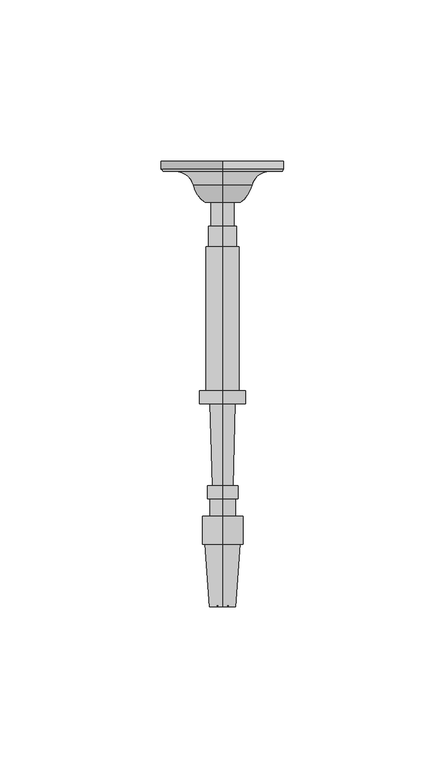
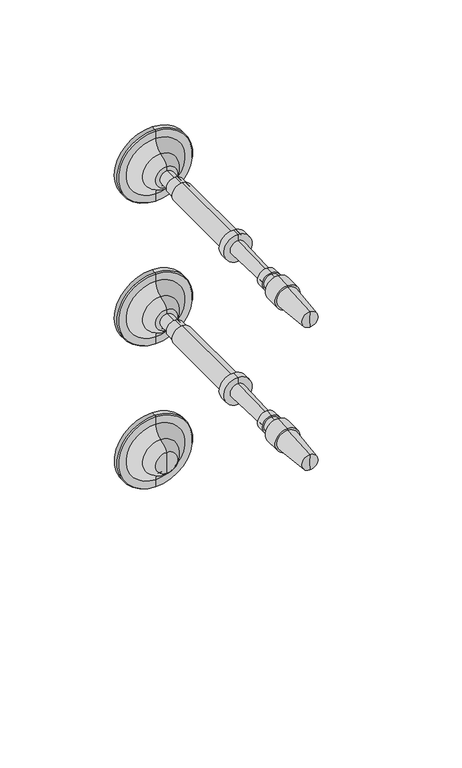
"""IFC4 building model written with IfcOpenShell, lengths in millimetres: railing geometry, RAILEASY CABLE RAILING CORNER TENSIONERS STAIR."""

from ifc_helpers import new_model, si_unit, point, frame, origin, place, context, project, spatial, polyline, circle_curve, ellipse_curve, trimmed, source, transform, mapped, element, save
from ifc_brep_helpers import plane_surface, cylinder_surface, revolved_surface, advanced_brep


def railing_e89b9eff(model_context):
    return source(origin(), model_context, "Body", "AdvancedBrep", [
        advanced_brep(
        [(4097.4568095, 20263.8073048, 32915.0001631), (4097.4568095, 20263.8073048, 32895.9501631), (4097.4568095, 20263.8073048, 32934.0501631), (4097.4568095, 20251.1146682, 32909.4769785), (4097.4568095, 20251.1146682, 32915.0001631), (4097.4568095, 20251.1146682, 32920.5233478), (4097.4568095, 20256.3907646, 32905.8720381), (4097.4568095, 20256.3907646, 32924.1282881), (4097.4568095, 20260.7563896, 32900.2458254), (4097.4568095, 20260.7563896, 32929.7545009), (4097.4568095, 20260.7563896, 32896.3762941), (4097.4568095, 20260.7563896, 32933.6240321), (4097.4568095, 20261.4260548, 32895.9501631), (4097.4568095, 20261.4260548, 32934.0501631)],
        [
            (0, 1),
            (1, 2, circle_curve(frame((4097.4568095, 20263.8073048, 32915.0001631), z_axis=(0.0, 1.0, 0.0), x_axis=(0.0, 0.0, 1.0)), 19.05)),
            (2, 0),
            (2, 1, circle_curve(frame((4097.4568095, 20263.8073048, 32915.0001631), z_axis=(0.0, 1.0, 0.0), x_axis=(0.0, 0.0, 1.0)), 19.05)),
            (3, 4),
            (4, 5),
            (5, 3, circle_curve(frame((4097.4568095, 20251.1146682, 32915.0001631), z_axis=(0.0, -1.0, 0.0), x_axis=(0.0, 0.0, 1.0)), 5.5231846)),
            (3, 5, circle_curve(frame((4097.4568095, 20251.1146682, 32915.0001631), z_axis=(0.0, -1.0, 0.0), x_axis=(0.0, 0.0, 1.0)), 5.5231846)),
            (6, 3, circle_curve(frame((4097.4568095, 20258.7151733, 32914.9374304), z_axis=(-1.0, 0.0, 0.0), x_axis=(0.0, -1.0, 0.0)), 9.3586438)),
            (5, 7, circle_curve(frame((4097.4568095, 20258.7151733, 32915.0628958), z_axis=(-1.0, 0.0, 0.0), x_axis=(0.0, -1.0, 0.0)), 9.3586438)),
            (7, 6, circle_curve(frame((4097.4568095, 20256.3907646, 32915.0001631), z_axis=(0.0, -1.0, 0.0), x_axis=(0.0, 0.0, 1.0)), 9.128125)),
            (6, 7, circle_curve(frame((4097.4568095, 20256.3907646, 32915.0001631), z_axis=(0.0, -1.0, 0.0), x_axis=(0.0, 0.0, 1.0)), 9.128125)),
            (8, 6, circle_curve(frame((4097.4568095, 20254.9481776, 32900.2458254), z_axis=(1.0, 0.0, 0.0), x_axis=(0.0, -1.0, 0.0)), 5.8082121)),
            (7, 9, circle_curve(frame((4097.4568095, 20254.9481776, 32929.7545009), z_axis=(1.0, 0.0, 0.0), x_axis=(0.0, -1.0, 0.0)), 5.8082121)),
            (9, 8, circle_curve(frame((4097.4568095, 20260.7563896, 32915.0001631), z_axis=(0.0, -1.0, 0.0), x_axis=(0.0, 0.0, 1.0)), 14.7543378)),
            (8, 9, circle_curve(frame((4097.4568095, 20260.7563896, 32915.0001631), z_axis=(0.0, -1.0, 0.0), x_axis=(0.0, 0.0, 1.0)), 14.7543378)),
            (10, 8),
            (9, 11),
            (11, 10, circle_curve(frame((4097.4568095, 20260.7563896, 32915.0001631), z_axis=(0.0, -1.0, 0.0), x_axis=(0.0, 0.0, 1.0)), 18.623869)),
            (10, 11, circle_curve(frame((4097.4568095, 20260.7563896, 32915.0001631), z_axis=(0.0, -1.0, 0.0), x_axis=(0.0, 0.0, 1.0)), 18.623869)),
            (12, 10),
            (11, 13),
            (13, 12, circle_curve(frame((4097.4568095, 20261.4260548, 32915.0001631), z_axis=(0.0, -1.0, 0.0), x_axis=(0.0, 0.0, 1.0)), 19.05)),
            (12, 13, circle_curve(frame((4097.4568095, 20261.4260548, 32915.0001631), z_axis=(0.0, -1.0, 0.0), x_axis=(0.0, 0.0, 1.0)), 19.05)),
            (1, 12),
            (13, 2),
        ],
        [
            plane_surface(frame((4097.4568095, 20263.8073048, 32915.0001631), z_axis=(0.0, 1.0, 0.0), x_axis=(0.0, 0.0, 1.0))),
            plane_surface(frame((4097.4568095, 20251.1146682, 32915.0001631), z_axis=(0.0, -1.0, 0.0), x_axis=(0.0, 0.0, 1.0))),
            revolved_surface(trimmed(ellipse_curve(frame((4097.4568095, 20258.7151733, 32915.0628958), z_axis=(-1.0, 0.0, 0.0), x_axis=(0.0, -1.0, 0.0)), 9.3586438, 9.3586438), [point((4097.4568095, 20251.1146682, 32920.5233478))], [point((4097.4568095, 20256.3907646, 32924.1282881))], True, "CARTESIAN"), (4097.4568095, 20263.8073048, 32915.0001631), (0.0, 1.0, 0.0)),
            revolved_surface(trimmed(ellipse_curve(frame((4097.4568095, 20254.9481776, 32929.7545009), z_axis=(1.0, 0.0, 0.0), x_axis=(0.0, -1.0, 0.0)), 5.8082121, 5.8082121), [point((4097.4568095, 20256.3907646, 32924.1282881))], [point((4097.4568095, 20260.7563896, 32929.7545009))], True, "CARTESIAN"), (4097.4568095, 20263.8073048, 32915.0001631), (0.0, 1.0, 0.0)),
            plane_surface(frame((4097.4568095, 20260.7563896, 32915.0001631), z_axis=(0.0, -1.0, 0.0), x_axis=(0.0, 0.0, 1.0))),
            revolved_surface(polyline([(4097.4568095, 20260.7563896, 32933.6240321), (4097.4568095, 20261.4260548, 32934.0501631)]), (4097.4568095, 20263.8073048, 32915.0001631), (0.0, 1.0, 0.0)),
            cylinder_surface(frame((4097.4568095, 20263.8073048, 32915.0001631), z_axis=(0.0, 1.0, 0.0), x_axis=(0.0, 0.0, 1.0)), 19.05),
        ],
        [
            (0, [[1, 2, 3]]),
            (0, [[-3, 4, -1]]),
            (1, [[5, 6, 7]]),
            (1, [[-6, -5, 8]]),
            (2, [[9, -7, 10, 11]]),
            (2, [[-10, -8, -9, 12]]),
            (3, [[13, -11, 14, 15]]),
            (3, [[-14, -12, -13, 16]]),
            (4, [[17, -15, 18, 19]]),
            (4, [[-18, -16, -17, 20]]),
            (5, [[21, -19, 22, 23]]),
            (5, [[-22, -20, -21, 24]]),
            (6, [[25, -23, 26, -2]]),
            (6, [[-26, -24, -25, -4]]),
        ],
    ),
        advanced_brep(
        [(4097.4568095, 20251.1146682, 32911.4282881), (4097.4568095, 20251.1146682, 32918.5720381), (4097.4568095, 20251.1146682, 32915.0001631), (4097.4568095, 20126.170779, 32915.0001631), (4097.4568095, 20125.8751146, 32919.0246235), (4097.4568095, 20125.8751146, 32910.9757028), (4097.4568095, 20145.2184786, 32920.445719), (4097.4568095, 20145.2184786, 32909.5546072), (4097.4568095, 20145.2184786, 32921.3386877), (4097.4568095, 20145.2184786, 32908.6616385), (4097.4568095, 20153.8505098, 32921.3386877), (4097.4568095, 20153.8505098, 32908.6616385), (4097.4568095, 20153.8505098, 32918.9574377), (4097.4568095, 20153.8505098, 32911.0428885), (4097.4568095, 20159.2083223, 32918.9574377), (4097.4568095, 20159.2083223, 32911.0428885), (4097.4568095, 20159.2083223, 32919.7511877), (4097.4568095, 20159.2083223, 32910.2491385), (4097.4568095, 20163.2762911, 32919.7511877), (4097.4568095, 20163.2762911, 32910.2491385), (4097.4568095, 20163.3203782, 32918.1643), (4097.4568095, 20163.3203782, 32911.8360262), (4097.4568095, 20188.7105814, 32918.8696944), (4097.4568095, 20188.7105814, 32911.1306319), (4097.4568095, 20188.7105814, 32922.1439131), (4097.4568095, 20188.7105814, 32907.8564131), (4097.4568095, 20192.6793314, 32922.1439131), (4097.4568095, 20192.6793314, 32907.8564131), (4097.4568095, 20192.6793314, 32920.1595381), (4097.4568095, 20192.6793314, 32909.8407881), (4097.4568095, 20237.4269877, 32920.1595381), (4097.4568095, 20237.4269877, 32909.8407881), (4097.4568095, 20237.4269877, 32919.3657881), (4097.4568095, 20237.4269877, 32910.6345381), (4097.4568095, 20243.7769877, 32919.3657881), (4097.4568095, 20243.7769877, 32910.6345381), (4097.4568095, 20243.7769877, 32918.5720381), (4097.4568095, 20243.7769877, 32911.4282881)],
        [
            (0, 1, circle_curve(frame((4097.4568095, 20251.1146682, 32915.0001631), z_axis=(0.0, 1.0, 0.0), x_axis=(0.0, 0.0, 1.0000000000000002)), 3.571875)),
            (1, 2),
            (2, 0),
            (1, 0, circle_curve(frame((4097.4568095, 20251.1146682, 32915.0001631), z_axis=(0.0, 1.0, 0.0), x_axis=(0.0, 0.0, 1.0000000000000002)), 3.571875)),
            (3, 4),
            (4, 5, circle_curve(frame((4097.4568095, 20125.8751146, 32915.0001631), z_axis=(0.0, -1.0, 0.0), x_axis=(0.0, 0.0, 1.0000000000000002)), 4.0244604)),
            (5, 3),
            (5, 4, circle_curve(frame((4097.4568095, 20125.8751146, 32915.0001631), z_axis=(0.0, -1.0, 0.0), x_axis=(0.0, 0.0, 1.0000000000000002)), 4.0244604)),
            (4, 6),
            (6, 7, circle_curve(frame((4097.4568095, 20145.2184786, 32915.0001631), z_axis=(0.0, -1.0, 0.0), x_axis=(0.0, 0.0, 1.0000000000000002)), 5.4455559)),
            (7, 5),
            (7, 6, circle_curve(frame((4097.4568095, 20145.2184786, 32915.0001631), z_axis=(0.0, -1.0, 0.0), x_axis=(0.0, 0.0, 1.0000000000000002)), 5.4455559)),
            (6, 8),
            (8, 9, circle_curve(frame((4097.4568095, 20145.2184786, 32915.0001631), z_axis=(0.0, -1.0, 0.0), x_axis=(0.0, 0.0, 1.0000000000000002)), 6.3385246)),
            (9, 7),
            (9, 8, circle_curve(frame((4097.4568095, 20145.2184786, 32915.0001631), z_axis=(0.0, -1.0, 0.0), x_axis=(0.0, 0.0, 1.0000000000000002)), 6.3385246)),
            (8, 10),
            (10, 11, circle_curve(frame((4097.4568095, 20153.8505098, 32915.0001631), z_axis=(0.0, -1.0, 0.0), x_axis=(0.0, 0.0, 1.0000000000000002)), 6.3385246)),
            (11, 9),
            (11, 10, circle_curve(frame((4097.4568095, 20153.8505098, 32915.0001631), z_axis=(0.0, -1.0, 0.0), x_axis=(0.0, 0.0, 1.0000000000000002)), 6.3385246)),
            (10, 12),
            (12, 13, circle_curve(frame((4097.4568095, 20153.8505098, 32915.0001631), z_axis=(0.0, -1.0, 0.0), x_axis=(0.0, 0.0, 1.0000000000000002)), 3.9572746)),
            (13, 11),
            (13, 12, circle_curve(frame((4097.4568095, 20153.8505098, 32915.0001631), z_axis=(0.0, -1.0, 0.0), x_axis=(0.0, 0.0, 1.0000000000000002)), 3.9572746)),
            (12, 14),
            (14, 15, circle_curve(frame((4097.4568095, 20159.2083223, 32915.0001631), z_axis=(0.0, -1.0, 0.0), x_axis=(0.0, 0.0, 1.0000000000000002)), 3.9572746)),
            (15, 13),
            (15, 14, circle_curve(frame((4097.4568095, 20159.2083223, 32915.0001631), z_axis=(0.0, -1.0, 0.0), x_axis=(0.0, 0.0, 1.0000000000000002)), 3.9572746)),
            (14, 16),
            (16, 17, circle_curve(frame((4097.4568095, 20159.2083223, 32915.0001631), z_axis=(0.0, -1.0, 0.0), x_axis=(0.0, 0.0, 1.0000000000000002)), 4.7510246)),
            (17, 15),
            (17, 16, circle_curve(frame((4097.4568095, 20159.2083223, 32915.0001631), z_axis=(0.0, -1.0, 0.0), x_axis=(0.0, 0.0, 1.0000000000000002)), 4.7510246)),
            (16, 18),
            (18, 19, circle_curve(frame((4097.4568095, 20163.2762911, 32915.0001631), z_axis=(0.0, -1.0, 0.0), x_axis=(0.0, 0.0, 1.0000000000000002)), 4.7510246)),
            (19, 17),
            (19, 18, circle_curve(frame((4097.4568095, 20163.2762911, 32915.0001631), z_axis=(0.0, -1.0, 0.0), x_axis=(0.0, 0.0, 1.0000000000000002)), 4.7510246)),
            (18, 20),
            (20, 21, circle_curve(frame((4097.4568095, 20163.3203782, 32915.0001631), z_axis=(0.0, -1.0, 0.0), x_axis=(0.0, 0.0, 1.0000000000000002)), 3.1641369)),
            (21, 19),
            (21, 20, circle_curve(frame((4097.4568095, 20163.3203782, 32915.0001631), z_axis=(0.0, -1.0, 0.0), x_axis=(0.0, 0.0, 1.0000000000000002)), 3.1641369)),
            (20, 22),
            (22, 23, circle_curve(frame((4097.4568095, 20188.7105814, 32915.0001631), z_axis=(0.0, -1.0, 0.0), x_axis=(0.0, 0.0, 1.0000000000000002)), 3.8695313)),
            (23, 21),
            (23, 22, circle_curve(frame((4097.4568095, 20188.7105814, 32915.0001631), z_axis=(0.0, -1.0, 0.0), x_axis=(0.0, 0.0, 1.0000000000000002)), 3.8695313)),
            (22, 24),
            (24, 25, circle_curve(frame((4097.4568095, 20188.7105814, 32915.0001631), z_axis=(0.0, -1.0, 0.0), x_axis=(0.0, 0.0, 1.0000000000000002)), 7.14375)),
            (25, 23),
            (25, 24, circle_curve(frame((4097.4568095, 20188.7105814, 32915.0001631), z_axis=(0.0, -1.0, 0.0), x_axis=(0.0, 0.0, 1.0000000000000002)), 7.14375)),
            (24, 26),
            (26, 27, circle_curve(frame((4097.4568095, 20192.6793314, 32915.0001631), z_axis=(0.0, -1.0, 0.0), x_axis=(0.0, 0.0, 1.0000000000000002)), 7.14375)),
            (27, 25),
            (27, 26, circle_curve(frame((4097.4568095, 20192.6793314, 32915.0001631), z_axis=(0.0, -1.0, 0.0), x_axis=(0.0, 0.0, 1.0000000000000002)), 7.14375)),
            (26, 28),
            (28, 29, circle_curve(frame((4097.4568095, 20192.6793314, 32915.0001631), z_axis=(0.0, -1.0, 0.0), x_axis=(0.0, 0.0, 1.0000000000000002)), 5.159375)),
            (29, 27),
            (29, 28, circle_curve(frame((4097.4568095, 20192.6793314, 32915.0001631), z_axis=(0.0, -1.0, 0.0), x_axis=(0.0, 0.0, 1.0000000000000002)), 5.159375)),
            (28, 30),
            (30, 31, circle_curve(frame((4097.4568095, 20237.4269877, 32915.0001631), z_axis=(0.0, -1.0, 0.0), x_axis=(0.0, 0.0, 1.0000000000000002)), 5.159375)),
            (31, 29),
            (31, 30, circle_curve(frame((4097.4568095, 20237.4269877, 32915.0001631), z_axis=(0.0, -1.0, 0.0), x_axis=(0.0, 0.0, 1.0000000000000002)), 5.159375)),
            (30, 32),
            (32, 33, circle_curve(frame((4097.4568095, 20237.4269877, 32915.0001631), z_axis=(0.0, -1.0, 0.0), x_axis=(0.0, 0.0, 1.0000000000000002)), 4.365625)),
            (33, 31),
            (33, 32, circle_curve(frame((4097.4568095, 20237.4269877, 32915.0001631), z_axis=(0.0, -1.0, 0.0), x_axis=(0.0, 0.0, 1.0000000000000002)), 4.365625)),
            (32, 34),
            (34, 35, circle_curve(frame((4097.4568095, 20243.7769877, 32915.0001631), z_axis=(0.0, -1.0, 0.0), x_axis=(0.0, 0.0, 1.0000000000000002)), 4.365625)),
            (35, 33),
            (35, 34, circle_curve(frame((4097.4568095, 20243.7769877, 32915.0001631), z_axis=(0.0, -1.0, 0.0), x_axis=(0.0, 0.0, 1.0000000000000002)), 4.365625)),
            (34, 36),
            (36, 37, circle_curve(frame((4097.4568095, 20243.7769877, 32915.0001631), z_axis=(0.0, -1.0, 0.0), x_axis=(0.0, 0.0, 1.0000000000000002)), 3.571875)),
            (37, 35),
            (37, 36, circle_curve(frame((4097.4568095, 20243.7769877, 32915.0001631), z_axis=(0.0, -1.0, 0.0), x_axis=(0.0, 0.0, 1.0000000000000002)), 3.571875)),
            (36, 1),
            (0, 37),
        ],
        [
            plane_surface(frame((4097.4568095, 20251.1146682, 32915.0001631), z_axis=(0.0, 1.0, 0.0), x_axis=(0.0, 0.0, 1.0))),
            revolved_surface(polyline([(4097.4568095, 20125.8751146, 32919.0246235), (4097.4568095, 20126.170779, 32915.0001631)]), (4097.4568095, 20126.170779, 32915.0001631), (0.0, -1.0, 0.0)),
            revolved_surface(polyline([(4097.4568095, 20145.2184786, 32920.445719), (4097.4568095, 20125.8751146, 32919.0246235)]), (4097.4568095, 20126.170779, 32915.0001631), (0.0, -1.0, 0.0)),
            plane_surface(frame((4097.4568095, 20145.2184786, 32915.0001631), z_axis=(0.0, -1.0, 0.0), x_axis=(0.0, 0.0, 1.0))),
            cylinder_surface(frame((4097.4568095, 20126.170779, 32915.0001631), z_axis=(0.0, -1.0, 0.0), x_axis=(0.0, 0.0, 1.0000000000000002)), 6.3385246),
            plane_surface(frame((4097.4568095, 20153.8505098, 32915.0001631), z_axis=(0.0, 1.0, 0.0), x_axis=(0.0, 0.0, 1.0))),
            cylinder_surface(frame((4097.4568095, 20126.170779, 32915.0001631), z_axis=(0.0, -1.0, 0.0), x_axis=(0.0, 0.0, 1.0000000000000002)), 3.9572746),
            plane_surface(frame((4097.4568095, 20159.2083223, 32915.0001631), z_axis=(0.0, -1.0, 0.0), x_axis=(0.0, 0.0, 1.0))),
            cylinder_surface(frame((4097.4568095, 20126.170779, 32915.0001631), z_axis=(0.0, -1.0, 0.0), x_axis=(0.0, 0.0, 1.0000000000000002)), 4.7510246),
            plane_surface(frame((4097.4568095, 20163.3203782, 32915.0001631), z_axis=(0.0, 1.0, 0.0), x_axis=(0.0, 0.0, 1.0))),
            revolved_surface(polyline([(4097.4568095, 20188.7105814, 32918.8696944), (4097.4568095, 20163.3203782, 32918.1643)]), (4097.4568095, 20126.170779, 32915.0001631), (0.0, -1.0, 0.0)),
            plane_surface(frame((4097.4568095, 20188.7105814, 32915.0001631), z_axis=(0.0, -1.0, 0.0), x_axis=(0.0, 0.0, 1.0))),
            cylinder_surface(frame((4097.4568095, 20126.170779, 32915.0001631), z_axis=(0.0, -1.0, 0.0), x_axis=(0.0, 0.0, 1.0000000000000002)), 7.14375),
            plane_surface(frame((4097.4568095, 20192.6793314, 32915.0001631), z_axis=(0.0, 1.0, 0.0), x_axis=(0.0, 0.0, 1.0))),
            cylinder_surface(frame((4097.4568095, 20126.170779, 32915.0001631), z_axis=(0.0, -1.0, 0.0), x_axis=(0.0, 0.0, 1.0000000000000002)), 5.159375),
            plane_surface(frame((4097.4568095, 20237.4269877, 32915.0001631), z_axis=(0.0, 1.0, 0.0), x_axis=(0.0, 0.0, 1.0))),
            cylinder_surface(frame((4097.4568095, 20126.170779, 32915.0001631), z_axis=(0.0, -1.0, 0.0), x_axis=(0.0, 0.0, 1.0000000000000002)), 4.365625),
            plane_surface(frame((4097.4568095, 20243.7769877, 32915.0001631), z_axis=(0.0, 1.0, 0.0), x_axis=(0.0, 0.0, 1.0))),
            cylinder_surface(frame((4097.4568095, 20126.170779, 32915.0001631), z_axis=(0.0, -1.0, 0.0), x_axis=(0.0, 0.0, 1.0000000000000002)), 3.571875),
        ],
        [
            (0, [[1, 2, 3]]),
            (0, [[4, -3, -2]]),
            (1, [[5, 6, 7]]),
            (1, [[-7, 8, -5]]),
            (2, [[-6, 9, 10, 11]]),
            (2, [[-8, -11, 12, -9]]),
            (3, [[-10, 13, 14, 15]]),
            (3, [[-12, -15, 16, -13]]),
            (4, [[-14, 17, 18, 19]]),
            (4, [[-16, -19, 20, -17]]),
            (5, [[-18, 21, 22, 23]]),
            (5, [[-20, -23, 24, -21]]),
            (6, [[-22, 25, 26, 27]]),
            (6, [[-24, -27, 28, -25]]),
            (7, [[-26, 29, 30, 31]]),
            (7, [[-28, -31, 32, -29]]),
            (8, [[-30, 33, 34, 35]]),
            (8, [[-32, -35, 36, -33]]),
            (9, [[-34, 37, 38, 39]]),
            (9, [[-36, -39, 40, -37]]),
            (10, [[-38, 41, 42, 43]]),
            (10, [[-40, -43, 44, -41]]),
            (11, [[-42, 45, 46, 47]]),
            (11, [[-44, -47, 48, -45]]),
            (12, [[-46, 49, 50, 51]]),
            (12, [[-48, -51, 52, -49]]),
            (13, [[-50, 53, 54, 55]]),
            (13, [[-52, -55, 56, -53]]),
            (14, [[-54, 57, 58, 59]]),
            (14, [[-56, -59, 60, -57]]),
            (15, [[-58, 61, 62, 63]]),
            (15, [[-60, -63, 64, -61]]),
            (16, [[-62, 65, 66, 67]]),
            (16, [[-64, -67, 68, -65]]),
            (17, [[-66, 69, 70, 71]]),
            (17, [[-68, -71, 72, -69]]),
            (18, [[-70, 73, -1, 74]]),
            (18, [[-72, -74, -4, -73]]),
        ],
    ),
        advanced_brep(
        [(4097.4568095, 20263.8073048, 32838.8001631), (4097.4568095, 20263.8073048, 32819.7501631), (4097.4568095, 20263.8073048, 32857.8501631), (4097.4568095, 20251.1146682, 32833.2769785), (4097.4568095, 20251.1146682, 32838.8001631), (4097.4568095, 20251.1146682, 32844.3233478), (4097.4568095, 20256.3907646, 32829.6720381), (4097.4568095, 20256.3907646, 32847.9282881), (4097.4568095, 20260.7563896, 32824.0458254), (4097.4568095, 20260.7563896, 32853.5545009), (4097.4568095, 20260.7563896, 32820.1762941), (4097.4568095, 20260.7563896, 32857.4240321), (4097.4568095, 20261.4260548, 32819.7501631), (4097.4568095, 20261.4260548, 32857.8501631)],
        [
            (0, 1),
            (1, 2, circle_curve(frame((4097.4568095, 20263.8073048, 32838.8001631), z_axis=(0.0, 1.0, 0.0), x_axis=(0.0, 0.0, 1.0)), 19.05)),
            (2, 0),
            (2, 1, circle_curve(frame((4097.4568095, 20263.8073048, 32838.8001631), z_axis=(0.0, 1.0, 0.0), x_axis=(0.0, 0.0, 1.0)), 19.05)),
            (3, 4),
            (4, 5),
            (5, 3, circle_curve(frame((4097.4568095, 20251.1146682, 32838.8001631), z_axis=(0.0, -1.0, 0.0), x_axis=(0.0, 0.0, 1.0)), 5.5231846)),
            (3, 5, circle_curve(frame((4097.4568095, 20251.1146682, 32838.8001631), z_axis=(0.0, -1.0, 0.0), x_axis=(0.0, 0.0, 1.0)), 5.5231846)),
            (6, 3, circle_curve(frame((4097.4568095, 20258.7151733, 32838.7374304), z_axis=(-1.0, 0.0, 0.0), x_axis=(0.0, -1.0, 0.0)), 9.3586438)),
            (5, 7, circle_curve(frame((4097.4568095, 20258.7151733, 32838.8628958), z_axis=(-1.0, 0.0, 0.0), x_axis=(0.0, -1.0, 0.0)), 9.3586438)),
            (7, 6, circle_curve(frame((4097.4568095, 20256.3907646, 32838.8001631), z_axis=(0.0, -1.0, 0.0), x_axis=(0.0, 0.0, 1.0)), 9.128125)),
            (6, 7, circle_curve(frame((4097.4568095, 20256.3907646, 32838.8001631), z_axis=(0.0, -1.0, 0.0), x_axis=(0.0, 0.0, 1.0)), 9.128125)),
            (8, 6, circle_curve(frame((4097.4568095, 20254.9481776, 32824.0458254), z_axis=(1.0, 0.0, 0.0), x_axis=(0.0, -1.0, 0.0)), 5.8082121)),
            (7, 9, circle_curve(frame((4097.4568095, 20254.9481776, 32853.5545009), z_axis=(1.0, 0.0, 0.0), x_axis=(0.0, -1.0, 0.0)), 5.8082121)),
            (9, 8, circle_curve(frame((4097.4568095, 20260.7563896, 32838.8001631), z_axis=(0.0, -1.0, 0.0), x_axis=(0.0, 0.0, 1.0)), 14.7543378)),
            (8, 9, circle_curve(frame((4097.4568095, 20260.7563896, 32838.8001631), z_axis=(0.0, -1.0, 0.0), x_axis=(0.0, 0.0, 1.0)), 14.7543378)),
            (10, 8),
            (9, 11),
            (11, 10, circle_curve(frame((4097.4568095, 20260.7563896, 32838.8001631), z_axis=(0.0, -1.0, 0.0), x_axis=(0.0, 0.0, 1.0)), 18.623869)),
            (10, 11, circle_curve(frame((4097.4568095, 20260.7563896, 32838.8001631), z_axis=(0.0, -1.0, 0.0), x_axis=(0.0, 0.0, 1.0)), 18.623869)),
            (12, 10),
            (11, 13),
            (13, 12, circle_curve(frame((4097.4568095, 20261.4260548, 32838.8001631), z_axis=(0.0, -1.0, 0.0), x_axis=(0.0, 0.0, 1.0)), 19.05)),
            (12, 13, circle_curve(frame((4097.4568095, 20261.4260548, 32838.8001631), z_axis=(0.0, -1.0, 0.0), x_axis=(0.0, 0.0, 1.0)), 19.05)),
            (1, 12),
            (13, 2),
        ],
        [
            plane_surface(frame((4097.4568095, 20263.8073048, 32838.8001631), z_axis=(0.0, 1.0, 0.0), x_axis=(0.0, 0.0, 1.0))),
            plane_surface(frame((4097.4568095, 20251.1146682, 32838.8001631), z_axis=(0.0, -1.0, 0.0), x_axis=(0.0, 0.0, 1.0))),
            revolved_surface(trimmed(ellipse_curve(frame((4097.4568095, 20258.7151733, 32838.8628958), z_axis=(-1.0, 0.0, 0.0), x_axis=(0.0, -1.0, 0.0)), 9.3586438, 9.3586438), [point((4097.4568095, 20251.1146682, 32844.3233478))], [point((4097.4568095, 20256.3907646, 32847.9282881))], True, "CARTESIAN"), (4097.4568095, 20263.8073048, 32838.8001631), (0.0, 1.0, 0.0)),
            revolved_surface(trimmed(ellipse_curve(frame((4097.4568095, 20254.9481776, 32853.5545009), z_axis=(1.0, 0.0, 0.0), x_axis=(0.0, -1.0, 0.0)), 5.8082121, 5.8082121), [point((4097.4568095, 20256.3907646, 32847.9282881))], [point((4097.4568095, 20260.7563896, 32853.5545009))], True, "CARTESIAN"), (4097.4568095, 20263.8073048, 32838.8001631), (0.0, 1.0, 0.0)),
            plane_surface(frame((4097.4568095, 20260.7563896, 32838.8001631), z_axis=(0.0, -1.0, 0.0), x_axis=(0.0, 0.0, 1.0))),
            revolved_surface(polyline([(4097.4568095, 20260.7563896, 32857.4240321), (4097.4568095, 20261.4260548, 32857.8501631)]), (4097.4568095, 20263.8073048, 32838.8001631), (0.0, 1.0, 0.0)),
            cylinder_surface(frame((4097.4568095, 20263.8073048, 32838.8001631), z_axis=(0.0, 1.0, 0.0), x_axis=(0.0, 0.0, 1.0)), 19.05),
        ],
        [
            (0, [[1, 2, 3]]),
            (0, [[-3, 4, -1]]),
            (1, [[5, 6, 7]]),
            (1, [[-6, -5, 8]]),
            (2, [[9, -7, 10, 11]]),
            (2, [[-10, -8, -9, 12]]),
            (3, [[13, -11, 14, 15]]),
            (3, [[-14, -12, -13, 16]]),
            (4, [[17, -15, 18, 19]]),
            (4, [[-18, -16, -17, 20]]),
            (5, [[21, -19, 22, 23]]),
            (5, [[-22, -20, -21, 24]]),
            (6, [[25, -23, 26, -2]]),
            (6, [[-26, -24, -25, -4]]),
        ],
    ),
        advanced_brep(
        [(4097.4568095, 20251.1146682, 32835.2282881), (4097.4568095, 20251.1146682, 32842.3720381), (4097.4568095, 20251.1146682, 32838.8001631), (4097.4568095, 20126.170779, 32838.8001631), (4097.4568095, 20125.8751146, 32842.8246235), (4097.4568095, 20125.8751146, 32834.7757028), (4097.4568095, 20145.2184786, 32844.245719), (4097.4568095, 20145.2184786, 32833.3546072), (4097.4568095, 20145.2184786, 32845.1386877), (4097.4568095, 20145.2184786, 32832.4616385), (4097.4568095, 20153.8505098, 32845.1386877), (4097.4568095, 20153.8505098, 32832.4616385), (4097.4568095, 20153.8505098, 32842.7574377), (4097.4568095, 20153.8505098, 32834.8428885), (4097.4568095, 20159.2083223, 32842.7574377), (4097.4568095, 20159.2083223, 32834.8428885), (4097.4568095, 20159.2083223, 32843.5511877), (4097.4568095, 20159.2083223, 32834.0491385), (4097.4568095, 20163.2762911, 32843.5511877), (4097.4568095, 20163.2762911, 32834.0491385), (4097.4568095, 20163.3203782, 32841.9643), (4097.4568095, 20163.3203782, 32835.6360262), (4097.4568095, 20188.7105814, 32842.6696944), (4097.4568095, 20188.7105814, 32834.9306319), (4097.4568095, 20188.7105814, 32845.9439131), (4097.4568095, 20188.7105814, 32831.6564131), (4097.4568095, 20192.6793314, 32845.9439131), (4097.4568095, 20192.6793314, 32831.6564131), (4097.4568095, 20192.6793314, 32843.9595381), (4097.4568095, 20192.6793314, 32833.6407881), (4097.4568095, 20237.4269877, 32843.9595381), (4097.4568095, 20237.4269877, 32833.6407881), (4097.4568095, 20237.4269877, 32843.1657881), (4097.4568095, 20237.4269877, 32834.4345381), (4097.4568095, 20243.7769877, 32843.1657881), (4097.4568095, 20243.7769877, 32834.4345381), (4097.4568095, 20243.7769877, 32842.3720381), (4097.4568095, 20243.7769877, 32835.2282881)],
        [
            (0, 1, circle_curve(frame((4097.4568095, 20251.1146682, 32838.8001631), z_axis=(0.0, 1.0, 0.0), x_axis=(0.0, 0.0, 1.0000000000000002)), 3.571875)),
            (1, 2),
            (2, 0),
            (1, 0, circle_curve(frame((4097.4568095, 20251.1146682, 32838.8001631), z_axis=(0.0, 1.0, 0.0), x_axis=(0.0, 0.0, 1.0000000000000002)), 3.571875)),
            (3, 4),
            (4, 5, circle_curve(frame((4097.4568095, 20125.8751146, 32838.8001631), z_axis=(0.0, -1.0, 0.0), x_axis=(0.0, 0.0, 1.0000000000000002)), 4.0244604)),
            (5, 3),
            (5, 4, circle_curve(frame((4097.4568095, 20125.8751146, 32838.8001631), z_axis=(0.0, -1.0, 0.0), x_axis=(0.0, 0.0, 1.0000000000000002)), 4.0244604)),
            (4, 6),
            (6, 7, circle_curve(frame((4097.4568095, 20145.2184786, 32838.8001631), z_axis=(0.0, -1.0, 0.0), x_axis=(0.0, 0.0, 1.0000000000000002)), 5.4455559)),
            (7, 5),
            (7, 6, circle_curve(frame((4097.4568095, 20145.2184786, 32838.8001631), z_axis=(0.0, -1.0, 0.0), x_axis=(0.0, 0.0, 1.0000000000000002)), 5.4455559)),
            (6, 8),
            (8, 9, circle_curve(frame((4097.4568095, 20145.2184786, 32838.8001631), z_axis=(0.0, -1.0, 0.0), x_axis=(0.0, 0.0, 1.0000000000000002)), 6.3385246)),
            (9, 7),
            (9, 8, circle_curve(frame((4097.4568095, 20145.2184786, 32838.8001631), z_axis=(0.0, -1.0, 0.0), x_axis=(0.0, 0.0, 1.0000000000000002)), 6.3385246)),
            (8, 10),
            (10, 11, circle_curve(frame((4097.4568095, 20153.8505098, 32838.8001631), z_axis=(0.0, -1.0, 0.0), x_axis=(0.0, 0.0, 1.0000000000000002)), 6.3385246)),
            (11, 9),
            (11, 10, circle_curve(frame((4097.4568095, 20153.8505098, 32838.8001631), z_axis=(0.0, -1.0, 0.0), x_axis=(0.0, 0.0, 1.0000000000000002)), 6.3385246)),
            (10, 12),
            (12, 13, circle_curve(frame((4097.4568095, 20153.8505098, 32838.8001631), z_axis=(0.0, -1.0, 0.0), x_axis=(0.0, 0.0, 1.0000000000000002)), 3.9572746)),
            (13, 11),
            (13, 12, circle_curve(frame((4097.4568095, 20153.8505098, 32838.8001631), z_axis=(0.0, -1.0, 0.0), x_axis=(0.0, 0.0, 1.0000000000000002)), 3.9572746)),
            (12, 14),
            (14, 15, circle_curve(frame((4097.4568095, 20159.2083223, 32838.8001631), z_axis=(0.0, -1.0, 0.0), x_axis=(0.0, 0.0, 1.0000000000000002)), 3.9572746)),
            (15, 13),
            (15, 14, circle_curve(frame((4097.4568095, 20159.2083223, 32838.8001631), z_axis=(0.0, -1.0, 0.0), x_axis=(0.0, 0.0, 1.0000000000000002)), 3.9572746)),
            (14, 16),
            (16, 17, circle_curve(frame((4097.4568095, 20159.2083223, 32838.8001631), z_axis=(0.0, -1.0, 0.0), x_axis=(0.0, 0.0, 1.0000000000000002)), 4.7510246)),
            (17, 15),
            (17, 16, circle_curve(frame((4097.4568095, 20159.2083223, 32838.8001631), z_axis=(0.0, -1.0, 0.0), x_axis=(0.0, 0.0, 1.0000000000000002)), 4.7510246)),
            (16, 18),
            (18, 19, circle_curve(frame((4097.4568095, 20163.2762911, 32838.8001631), z_axis=(0.0, -1.0, 0.0), x_axis=(0.0, 0.0, 1.0000000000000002)), 4.7510246)),
            (19, 17),
            (19, 18, circle_curve(frame((4097.4568095, 20163.2762911, 32838.8001631), z_axis=(0.0, -1.0, 0.0), x_axis=(0.0, 0.0, 1.0000000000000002)), 4.7510246)),
            (18, 20),
            (20, 21, circle_curve(frame((4097.4568095, 20163.3203782, 32838.8001631), z_axis=(0.0, -1.0, 0.0), x_axis=(0.0, 0.0, 1.0000000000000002)), 3.1641369)),
            (21, 19),
            (21, 20, circle_curve(frame((4097.4568095, 20163.3203782, 32838.8001631), z_axis=(0.0, -1.0, 0.0), x_axis=(0.0, 0.0, 1.0000000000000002)), 3.1641369)),
            (20, 22),
            (22, 23, circle_curve(frame((4097.4568095, 20188.7105814, 32838.8001631), z_axis=(0.0, -1.0, 0.0), x_axis=(0.0, 0.0, 1.0000000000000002)), 3.8695313)),
            (23, 21),
            (23, 22, circle_curve(frame((4097.4568095, 20188.7105814, 32838.8001631), z_axis=(0.0, -1.0, 0.0), x_axis=(0.0, 0.0, 1.0000000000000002)), 3.8695313)),
            (22, 24),
            (24, 25, circle_curve(frame((4097.4568095, 20188.7105814, 32838.8001631), z_axis=(0.0, -1.0, 0.0), x_axis=(0.0, 0.0, 1.0000000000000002)), 7.14375)),
            (25, 23),
            (25, 24, circle_curve(frame((4097.4568095, 20188.7105814, 32838.8001631), z_axis=(0.0, -1.0, 0.0), x_axis=(0.0, 0.0, 1.0000000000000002)), 7.14375)),
            (24, 26),
            (26, 27, circle_curve(frame((4097.4568095, 20192.6793314, 32838.8001631), z_axis=(0.0, -1.0, 0.0), x_axis=(0.0, 0.0, 1.0000000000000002)), 7.14375)),
            (27, 25),
            (27, 26, circle_curve(frame((4097.4568095, 20192.6793314, 32838.8001631), z_axis=(0.0, -1.0, 0.0), x_axis=(0.0, 0.0, 1.0000000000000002)), 7.14375)),
            (26, 28),
            (28, 29, circle_curve(frame((4097.4568095, 20192.6793314, 32838.8001631), z_axis=(0.0, -1.0, 0.0), x_axis=(0.0, 0.0, 1.0000000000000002)), 5.159375)),
            (29, 27),
            (29, 28, circle_curve(frame((4097.4568095, 20192.6793314, 32838.8001631), z_axis=(0.0, -1.0, 0.0), x_axis=(0.0, 0.0, 1.0000000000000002)), 5.159375)),
            (28, 30),
            (30, 31, circle_curve(frame((4097.4568095, 20237.4269877, 32838.8001631), z_axis=(0.0, -1.0, 0.0), x_axis=(0.0, 0.0, 1.0000000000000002)), 5.159375)),
            (31, 29),
            (31, 30, circle_curve(frame((4097.4568095, 20237.4269877, 32838.8001631), z_axis=(0.0, -1.0, 0.0), x_axis=(0.0, 0.0, 1.0000000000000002)), 5.159375)),
            (30, 32),
            (32, 33, circle_curve(frame((4097.4568095, 20237.4269877, 32838.8001631), z_axis=(0.0, -1.0, 0.0), x_axis=(0.0, 0.0, 1.0000000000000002)), 4.365625)),
            (33, 31),
            (33, 32, circle_curve(frame((4097.4568095, 20237.4269877, 32838.8001631), z_axis=(0.0, -1.0, 0.0), x_axis=(0.0, 0.0, 1.0000000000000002)), 4.365625)),
            (32, 34),
            (34, 35, circle_curve(frame((4097.4568095, 20243.7769877, 32838.8001631), z_axis=(0.0, -1.0, 0.0), x_axis=(0.0, 0.0, 1.0000000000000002)), 4.365625)),
            (35, 33),
            (35, 34, circle_curve(frame((4097.4568095, 20243.7769877, 32838.8001631), z_axis=(0.0, -1.0, 0.0), x_axis=(0.0, 0.0, 1.0000000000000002)), 4.365625)),
            (34, 36),
            (36, 37, circle_curve(frame((4097.4568095, 20243.7769877, 32838.8001631), z_axis=(0.0, -1.0, 0.0), x_axis=(0.0, 0.0, 1.0000000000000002)), 3.571875)),
            (37, 35),
            (37, 36, circle_curve(frame((4097.4568095, 20243.7769877, 32838.8001631), z_axis=(0.0, -1.0, 0.0), x_axis=(0.0, 0.0, 1.0000000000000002)), 3.571875)),
            (36, 1),
            (0, 37),
        ],
        [
            plane_surface(frame((4097.4568095, 20251.1146682, 32838.8001631), z_axis=(0.0, 1.0, 0.0), x_axis=(0.0, 0.0, 1.0))),
            revolved_surface(polyline([(4097.4568095, 20125.8751146, 32842.8246235), (4097.4568095, 20126.170779, 32838.8001631)]), (4097.4568095, 20126.170779, 32838.8001631), (0.0, -1.0, 0.0)),
            revolved_surface(polyline([(4097.4568095, 20145.2184786, 32844.245719), (4097.4568095, 20125.8751146, 32842.8246235)]), (4097.4568095, 20126.170779, 32838.8001631), (0.0, -1.0, 0.0)),
            plane_surface(frame((4097.4568095, 20145.2184786, 32838.8001631), z_axis=(0.0, -1.0, 0.0), x_axis=(0.0, 0.0, 1.0))),
            cylinder_surface(frame((4097.4568095, 20126.170779, 32838.8001631), z_axis=(0.0, -1.0, 0.0), x_axis=(0.0, 0.0, 1.0000000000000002)), 6.3385246),
            plane_surface(frame((4097.4568095, 20153.8505098, 32838.8001631), z_axis=(0.0, 1.0, 0.0), x_axis=(0.0, 0.0, 1.0))),
            cylinder_surface(frame((4097.4568095, 20126.170779, 32838.8001631), z_axis=(0.0, -1.0, 0.0), x_axis=(0.0, 0.0, 1.0000000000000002)), 3.9572746),
            plane_surface(frame((4097.4568095, 20159.2083223, 32838.8001631), z_axis=(0.0, -1.0, 0.0), x_axis=(0.0, 0.0, 1.0))),
            cylinder_surface(frame((4097.4568095, 20126.170779, 32838.8001631), z_axis=(0.0, -1.0, 0.0), x_axis=(0.0, 0.0, 1.0000000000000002)), 4.7510246),
            plane_surface(frame((4097.4568095, 20163.3203782, 32838.8001631), z_axis=(0.0, 1.0, 0.0), x_axis=(0.0, 0.0, 1.0))),
            revolved_surface(polyline([(4097.4568095, 20188.7105814, 32842.6696944), (4097.4568095, 20163.3203782, 32841.9643)]), (4097.4568095, 20126.170779, 32838.8001631), (0.0, -1.0, 0.0)),
            plane_surface(frame((4097.4568095, 20188.7105814, 32838.8001631), z_axis=(0.0, -1.0, 0.0), x_axis=(0.0, 0.0, 1.0))),
            cylinder_surface(frame((4097.4568095, 20126.170779, 32838.8001631), z_axis=(0.0, -1.0, 0.0), x_axis=(0.0, 0.0, 1.0000000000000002)), 7.14375),
            plane_surface(frame((4097.4568095, 20192.6793314, 32838.8001631), z_axis=(0.0, 1.0, 0.0), x_axis=(0.0, 0.0, 1.0))),
            cylinder_surface(frame((4097.4568095, 20126.170779, 32838.8001631), z_axis=(0.0, -1.0, 0.0), x_axis=(0.0, 0.0, 1.0000000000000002)), 5.159375),
            plane_surface(frame((4097.4568095, 20237.4269877, 32838.8001631), z_axis=(0.0, 1.0, 0.0), x_axis=(0.0, 0.0, 1.0))),
            cylinder_surface(frame((4097.4568095, 20126.170779, 32838.8001631), z_axis=(0.0, -1.0, 0.0), x_axis=(0.0, 0.0, 1.0000000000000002)), 4.365625),
            plane_surface(frame((4097.4568095, 20243.7769877, 32838.8001631), z_axis=(0.0, 1.0, 0.0), x_axis=(0.0, 0.0, 1.0))),
            cylinder_surface(frame((4097.4568095, 20126.170779, 32838.8001631), z_axis=(0.0, -1.0, 0.0), x_axis=(0.0, 0.0, 1.0000000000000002)), 3.571875),
        ],
        [
            (0, [[1, 2, 3]]),
            (0, [[4, -3, -2]]),
            (1, [[5, 6, 7]]),
            (1, [[-7, 8, -5]]),
            (2, [[-6, 9, 10, 11]]),
            (2, [[-8, -11, 12, -9]]),
            (3, [[-10, 13, 14, 15]]),
            (3, [[-12, -15, 16, -13]]),
            (4, [[-14, 17, 18, 19]]),
            (4, [[-16, -19, 20, -17]]),
            (5, [[-18, 21, 22, 23]]),
            (5, [[-20, -23, 24, -21]]),
            (6, [[-22, 25, 26, 27]]),
            (6, [[-24, -27, 28, -25]]),
            (7, [[-26, 29, 30, 31]]),
            (7, [[-28, -31, 32, -29]]),
            (8, [[-30, 33, 34, 35]]),
            (8, [[-32, -35, 36, -33]]),
            (9, [[-34, 37, 38, 39]]),
            (9, [[-36, -39, 40, -37]]),
            (10, [[-38, 41, 42, 43]]),
            (10, [[-40, -43, 44, -41]]),
            (11, [[-42, 45, 46, 47]]),
            (11, [[-44, -47, 48, -45]]),
            (12, [[-46, 49, 50, 51]]),
            (12, [[-48, -51, 52, -49]]),
            (13, [[-50, 53, 54, 55]]),
            (13, [[-52, -55, 56, -53]]),
            (14, [[-54, 57, 58, 59]]),
            (14, [[-56, -59, 60, -57]]),
            (15, [[-58, 61, 62, 63]]),
            (15, [[-60, -63, 64, -61]]),
            (16, [[-62, 65, 66, 67]]),
            (16, [[-64, -67, 68, -65]]),
            (17, [[-66, 69, 70, 71]]),
            (17, [[-68, -71, 72, -69]]),
            (18, [[-70, 73, -1, 74]]),
            (18, [[-72, -74, -4, -73]]),
        ],
    ),
        advanced_brep(
        [(4097.4568095, 20263.8073048, 32762.6001631), (4097.4568095, 20263.8073048, 32743.5501631), (4097.4568095, 20263.8073048, 32781.6501631), (4097.4568095, 20251.1146682, 32757.0769785), (4097.4568095, 20251.1146682, 32762.6001631), (4097.4568095, 20251.1146682, 32768.1233478), (4097.4568095, 20256.3907646, 32753.4720381), (4097.4568095, 20256.3907646, 32771.7282881), (4097.4568095, 20260.7563896, 32747.8458254), (4097.4568095, 20260.7563896, 32777.3545009), (4097.4568095, 20260.7563896, 32743.9762941), (4097.4568095, 20260.7563896, 32781.2240321), (4097.4568095, 20261.4260548, 32743.5501631), (4097.4568095, 20261.4260548, 32781.6501631)],
        [
            (0, 1),
            (1, 2, circle_curve(frame((4097.4568095, 20263.8073048, 32762.6001631), z_axis=(0.0, 1.0, 0.0), x_axis=(0.0, 0.0, 1.0)), 19.05)),
            (2, 0),
            (2, 1, circle_curve(frame((4097.4568095, 20263.8073048, 32762.6001631), z_axis=(0.0, 1.0, 0.0), x_axis=(0.0, 0.0, 1.0)), 19.05)),
            (3, 4),
            (4, 5),
            (5, 3, circle_curve(frame((4097.4568095, 20251.1146682, 32762.6001631), z_axis=(0.0, -1.0, 0.0), x_axis=(0.0, 0.0, 1.0)), 5.5231846)),
            (3, 5, circle_curve(frame((4097.4568095, 20251.1146682, 32762.6001631), z_axis=(0.0, -1.0, 0.0), x_axis=(0.0, 0.0, 1.0)), 5.5231846)),
            (6, 3, circle_curve(frame((4097.4568095, 20258.7151733, 32762.5374304), z_axis=(-1.0, 0.0, 0.0), x_axis=(0.0, -1.0, 0.0)), 9.3586438)),
            (5, 7, circle_curve(frame((4097.4568095, 20258.7151733, 32762.6628958), z_axis=(-1.0, 0.0, 0.0), x_axis=(0.0, -1.0, 0.0)), 9.3586438)),
            (7, 6, circle_curve(frame((4097.4568095, 20256.3907646, 32762.6001631), z_axis=(0.0, -1.0, 0.0), x_axis=(0.0, 0.0, 1.0)), 9.128125)),
            (6, 7, circle_curve(frame((4097.4568095, 20256.3907646, 32762.6001631), z_axis=(0.0, -1.0, 0.0), x_axis=(0.0, 0.0, 1.0)), 9.128125)),
            (8, 6, circle_curve(frame((4097.4568095, 20254.9481776, 32747.8458254), z_axis=(1.0, 0.0, 0.0), x_axis=(0.0, -1.0, 0.0)), 5.8082121)),
            (7, 9, circle_curve(frame((4097.4568095, 20254.9481776, 32777.3545009), z_axis=(1.0, 0.0, 0.0), x_axis=(0.0, -1.0, 0.0)), 5.8082121)),
            (9, 8, circle_curve(frame((4097.4568095, 20260.7563896, 32762.6001631), z_axis=(0.0, -1.0, 0.0), x_axis=(0.0, 0.0, 1.0)), 14.7543378)),
            (8, 9, circle_curve(frame((4097.4568095, 20260.7563896, 32762.6001631), z_axis=(0.0, -1.0, 0.0), x_axis=(0.0, 0.0, 1.0)), 14.7543378)),
            (10, 8),
            (9, 11),
            (11, 10, circle_curve(frame((4097.4568095, 20260.7563896, 32762.6001631), z_axis=(0.0, -1.0, 0.0), x_axis=(0.0, 0.0, 1.0)), 18.623869)),
            (10, 11, circle_curve(frame((4097.4568095, 20260.7563896, 32762.6001631), z_axis=(0.0, -1.0, 0.0), x_axis=(0.0, 0.0, 1.0)), 18.623869)),
            (12, 10),
            (11, 13),
            (13, 12, circle_curve(frame((4097.4568095, 20261.4260548, 32762.6001631), z_axis=(0.0, -1.0, 0.0), x_axis=(0.0, 0.0, 1.0)), 19.05)),
            (12, 13, circle_curve(frame((4097.4568095, 20261.4260548, 32762.6001631), z_axis=(0.0, -1.0, 0.0), x_axis=(0.0, 0.0, 1.0)), 19.05)),
            (1, 12),
            (13, 2),
        ],
        [
            plane_surface(frame((4097.4568095, 20263.8073048, 32762.6001631), z_axis=(0.0, 1.0, 0.0), x_axis=(0.0, 0.0, 1.0))),
            plane_surface(frame((4097.4568095, 20251.1146682, 32762.6001631), z_axis=(0.0, -1.0, 0.0), x_axis=(0.0, 0.0, 1.0))),
            revolved_surface(trimmed(ellipse_curve(frame((4097.4568095, 20258.7151733, 32762.6628958), z_axis=(-1.0, 0.0, 0.0), x_axis=(0.0, -1.0, 0.0)), 9.3586438, 9.3586438), [point((4097.4568095, 20251.1146682, 32768.1233478))], [point((4097.4568095, 20256.3907646, 32771.7282881))], True, "CARTESIAN"), (4097.4568095, 20263.8073048, 32762.6001631), (0.0, 1.0, 0.0)),
            revolved_surface(trimmed(ellipse_curve(frame((4097.4568095, 20254.9481776, 32777.3545009), z_axis=(1.0, 0.0, 0.0), x_axis=(0.0, -1.0, 0.0)), 5.8082121, 5.8082121), [point((4097.4568095, 20256.3907646, 32771.7282881))], [point((4097.4568095, 20260.7563896, 32777.3545009))], True, "CARTESIAN"), (4097.4568095, 20263.8073048, 32762.6001631), (0.0, 1.0, 0.0)),
            plane_surface(frame((4097.4568095, 20260.7563896, 32762.6001631), z_axis=(0.0, -1.0, 0.0), x_axis=(0.0, 0.0, 1.0))),
            revolved_surface(polyline([(4097.4568095, 20260.7563896, 32781.2240321), (4097.4568095, 20261.4260548, 32781.6501631)]), (4097.4568095, 20263.8073048, 32762.6001631), (0.0, 1.0, 0.0)),
            cylinder_surface(frame((4097.4568095, 20263.8073048, 32762.6001631), z_axis=(0.0, 1.0, 0.0), x_axis=(0.0, 0.0, 1.0)), 19.05),
        ],
        [
            (0, [[1, 2, 3]]),
            (0, [[-3, 4, -1]]),
            (1, [[5, 6, 7]]),
            (1, [[-6, -5, 8]]),
            (2, [[9, -7, 10, 11]]),
            (2, [[-10, -8, -9, 12]]),
            (3, [[13, -11, 14, 15]]),
            (3, [[-14, -12, -13, 16]]),
            (4, [[17, -15, 18, 19]]),
            (4, [[-18, -16, -17, 20]]),
            (5, [[21, -19, 22, 23]]),
            (5, [[-22, -20, -21, 24]]),
            (6, [[25, -23, 26, -2]]),
            (6, [[-26, -24, -25, -4]]),
        ],
    ),
    ])


if __name__ == "__main__":
    model = new_model("IFC4")
    model_context = context("Model", 3, world=origin())
    ifc_project = project(units=[si_unit("LENGTHUNIT", "METRE", prefix="MILLI")], contexts=[model_context])
    site = spatial("IfcSite", under=ifc_project)
    building = spatial("IfcBuilding", under=site)
    placement = place(None, origin())
    railing_shape = railing_e89b9eff(model_context)
    element("IfcRailing", 1, ObjectType="RAILEASY CABLE RAILING CORNER TENSIONERS STAIR", at=placement, inside=building, context=model_context, shape_type="MappedRepresentation", body=[
        mapped(railing_shape, transform((0.0, 0.0, 0.0), x_axis=(1.0, 0.0, 0.0), y_axis=(0.0, 1.0, 0.0), z_axis=(0.0, 0.0, 1.0))),
    ])
    save(model, "model.ifc")
